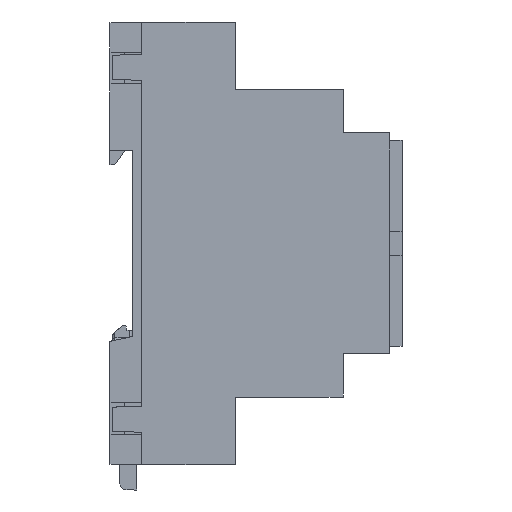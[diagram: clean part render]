
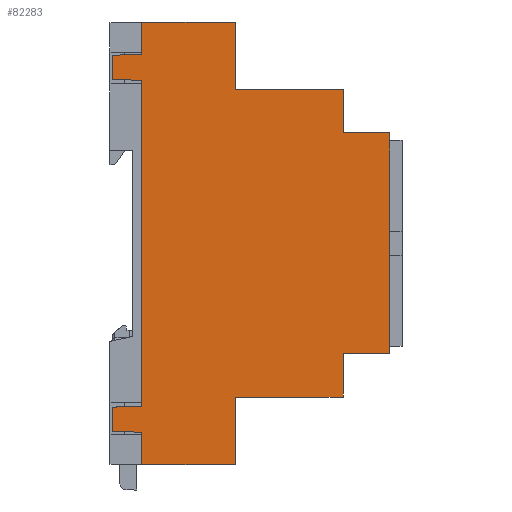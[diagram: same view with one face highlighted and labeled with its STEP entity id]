
A CAD part, left-side view. The second image highlights one B-rep face of the part: STEP entity #82283.
In plain terms, the highlighted planar face has unit normal (-1, 0, 0) as drawn and (0, 0, -1) by its records, which use the part's own axes.
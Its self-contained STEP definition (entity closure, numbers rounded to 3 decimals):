
#1433=PLANE('',#87171);
#5081=FACE_OUTER_BOUND('',#9883,.T.);
#9883=EDGE_LOOP('',(#57720,#57721,#57722,#57723,#57724,#57725,#57726,#57727,
#57728,#57729,#57730,#57731,#57732,#57733,#57734,#57735,#57736,#57737,#57738,
#57739));
#15290=LINE('',#119697,#25112);
#15295=LINE('',#119708,#25117);
#15299=LINE('',#119716,#25121);
#15301=LINE('',#119720,#25123);
#15302=LINE('',#119721,#25124);
#15303=LINE('',#119723,#25125);
#15304=LINE('',#119725,#25126);
#15305=LINE('',#119727,#25127);
#15306=LINE('',#119729,#25128);
#15307=LINE('',#119731,#25129);
#15308=LINE('',#119733,#25130);
#15309=LINE('',#119735,#25131);
#15310=LINE('',#119736,#25132);
#15311=LINE('',#119738,#25133);
#15312=LINE('',#119740,#25134);
#15313=LINE('',#119742,#25135);
#15314=LINE('',#119744,#25136);
#15315=LINE('',#119746,#25137);
#15316=LINE('',#119748,#25138);
#15317=LINE('',#119749,#25139);
#25112=VECTOR('',#95108,1000.);
#25117=VECTOR('',#95115,1000.);
#25121=VECTOR('',#95121,1000.);
#25123=VECTOR('',#95125,1000.);
#25124=VECTOR('',#95126,1000.);
#25125=VECTOR('',#95127,1000.);
#25126=VECTOR('',#95128,1000.);
#25127=VECTOR('',#95129,1000.);
#25128=VECTOR('',#95130,1000.);
#25129=VECTOR('',#95131,1000.);
#25130=VECTOR('',#95132,1000.);
#25131=VECTOR('',#95133,1000.);
#25132=VECTOR('',#95134,1000.);
#25133=VECTOR('',#95135,1000.);
#25134=VECTOR('',#95136,1000.);
#25135=VECTOR('',#95137,1000.);
#25136=VECTOR('',#95138,1000.);
#25137=VECTOR('',#95139,1000.);
#25138=VECTOR('',#95140,1000.);
#25139=VECTOR('',#95141,1000.);
#37167=VERTEX_POINT('',#119695);
#37168=VERTEX_POINT('',#119696);
#37172=VERTEX_POINT('',#119705);
#37173=VERTEX_POINT('',#119707);
#37175=VERTEX_POINT('',#119713);
#37176=VERTEX_POINT('',#119715);
#37177=VERTEX_POINT('',#119719);
#37178=VERTEX_POINT('',#119722);
#37179=VERTEX_POINT('',#119724);
#37180=VERTEX_POINT('',#119726);
#37181=VERTEX_POINT('',#119728);
#37182=VERTEX_POINT('',#119730);
#37183=VERTEX_POINT('',#119732);
#37184=VERTEX_POINT('',#119734);
#37185=VERTEX_POINT('',#119737);
#37186=VERTEX_POINT('',#119739);
#37187=VERTEX_POINT('',#119741);
#37188=VERTEX_POINT('',#119743);
#37189=VERTEX_POINT('',#119745);
#37190=VERTEX_POINT('',#119747);
#45060=EDGE_CURVE('',#37167,#37168,#15290,.T.);
#45065=EDGE_CURVE('',#37172,#37173,#15295,.T.);
#45069=EDGE_CURVE('',#37176,#37175,#15299,.T.);
#45071=EDGE_CURVE('',#37177,#37167,#15301,.T.);
#45072=EDGE_CURVE('',#37168,#37173,#15302,.T.);
#45073=EDGE_CURVE('',#37172,#37178,#15303,.T.);
#45074=EDGE_CURVE('',#37178,#37179,#15304,.T.);
#45075=EDGE_CURVE('',#37180,#37179,#15305,.T.);
#45076=EDGE_CURVE('',#37181,#37180,#15306,.T.);
#45077=EDGE_CURVE('',#37181,#37182,#15307,.T.);
#45078=EDGE_CURVE('',#37183,#37182,#15308,.T.);
#45079=EDGE_CURVE('',#37184,#37183,#15309,.T.);
#45080=EDGE_CURVE('',#37176,#37184,#15310,.T.);
#45081=EDGE_CURVE('',#37175,#37185,#15311,.T.);
#45082=EDGE_CURVE('',#37185,#37186,#15312,.T.);
#45083=EDGE_CURVE('',#37186,#37187,#15313,.T.);
#45084=EDGE_CURVE('',#37187,#37188,#15314,.T.);
#45085=EDGE_CURVE('',#37189,#37188,#15315,.T.);
#45086=EDGE_CURVE('',#37190,#37189,#15316,.T.);
#45087=EDGE_CURVE('',#37190,#37177,#15317,.T.);
#57720=ORIENTED_EDGE('',*,*,#45071,.T.);
#57721=ORIENTED_EDGE('',*,*,#45060,.T.);
#57722=ORIENTED_EDGE('',*,*,#45072,.T.);
#57723=ORIENTED_EDGE('',*,*,#45065,.F.);
#57724=ORIENTED_EDGE('',*,*,#45073,.T.);
#57725=ORIENTED_EDGE('',*,*,#45074,.T.);
#57726=ORIENTED_EDGE('',*,*,#45075,.F.);
#57727=ORIENTED_EDGE('',*,*,#45076,.F.);
#57728=ORIENTED_EDGE('',*,*,#45077,.T.);
#57729=ORIENTED_EDGE('',*,*,#45078,.F.);
#57730=ORIENTED_EDGE('',*,*,#45079,.F.);
#57731=ORIENTED_EDGE('',*,*,#45080,.F.);
#57732=ORIENTED_EDGE('',*,*,#45069,.T.);
#57733=ORIENTED_EDGE('',*,*,#45081,.T.);
#57734=ORIENTED_EDGE('',*,*,#45082,.T.);
#57735=ORIENTED_EDGE('',*,*,#45083,.T.);
#57736=ORIENTED_EDGE('',*,*,#45084,.T.);
#57737=ORIENTED_EDGE('',*,*,#45085,.F.);
#57738=ORIENTED_EDGE('',*,*,#45086,.F.);
#57739=ORIENTED_EDGE('',*,*,#45087,.T.);
#82283=ADVANCED_FACE('',(#5081),#1433,.F.);
#87171=AXIS2_PLACEMENT_3D('',#119718,#95123,#95124);
#95108=DIRECTION('',(0.,1.,0.));
#95115=DIRECTION('',(0.,1.,0.));
#95121=DIRECTION('',(-1.,0.,0.));
#95123=DIRECTION('center_axis',(0.,0.,1.));
#95124=DIRECTION('ref_axis',(1.,0.,0.));
#95125=DIRECTION('',(1.,0.,0.));
#95126=DIRECTION('',(1.,0.,0.));
#95127=DIRECTION('',(1.,0.,0.));
#95128=DIRECTION('',(0.,-1.,0.));
#95129=DIRECTION('',(-1.,0.,0.));
#95130=DIRECTION('',(0.,1.,0.));
#95131=DIRECTION('',(-1.,0.,0.));
#95132=DIRECTION('',(0.017,1.,0.));
#95133=DIRECTION('',(1.,0.,0.));
#95134=DIRECTION('',(0.017,-1.,0.));
#95135=DIRECTION('',(-0.017,-1.,0.));
#95136=DIRECTION('',(-1.,0.,0.));
#95137=DIRECTION('',(-0.017,1.,0.));
#95138=DIRECTION('',(-1.,0.,0.));
#95139=DIRECTION('',(0.,-1.,0.));
#95140=DIRECTION('',(-1.,0.,0.));
#95141=DIRECTION('',(0.,1.,0.));
#119695=CARTESIAN_POINT('',(32.5,48.197,-53.));
#119696=CARTESIAN_POINT('',(32.5,57.697,-53.));
#119697=CARTESIAN_POINT('',(32.5,47.197,-53.));
#119705=CARTESIAN_POINT('',(77.5,48.197,-53.));
#119707=CARTESIAN_POINT('',(77.5,57.697,-53.));
#119708=CARTESIAN_POINT('',(77.5,47.197,-53.));
#119713=CARTESIAN_POINT('',(21.755,7.197,-53.));
#119715=CARTESIAN_POINT('',(88.245,7.197,-53.));
#119716=CARTESIAN_POINT('',(10.2,7.197,-53.));
#119718=CARTESIAN_POINT('Origin',(55.7,22.819,-53.));
#119719=CARTESIAN_POINT('',(23.7,48.197,-53.));
#119720=CARTESIAN_POINT('',(23.7,48.197,-53.));
#119721=CARTESIAN_POINT('',(55.,57.697,-53.));
#119722=CARTESIAN_POINT('',(86.3,48.197,-53.));
#119723=CARTESIAN_POINT('',(86.3,48.197,-53.));
#119724=CARTESIAN_POINT('',(86.3,26.197,-53.));
#119725=CARTESIAN_POINT('',(86.3,48.197,-53.));
#119726=CARTESIAN_POINT('',(100.1,26.197,-53.));
#119727=CARTESIAN_POINT('',(100.8,26.197,-53.));
#119728=CARTESIAN_POINT('',(100.1,7.197,-53.));
#119729=CARTESIAN_POINT('',(100.1,23.819,-53.));
#119730=CARTESIAN_POINT('',(93.455,7.197,-53.));
#119731=CARTESIAN_POINT('',(9.1,7.197,-53.));
#119732=CARTESIAN_POINT('',(93.35,1.197,-53.));
#119733=CARTESIAN_POINT('',(93.35,1.197,-53.));
#119734=CARTESIAN_POINT('',(88.35,1.197,-53.));
#119735=CARTESIAN_POINT('',(90.85,1.197,-53.));
#119736=CARTESIAN_POINT('',(88.35,1.197,-53.));
#119737=CARTESIAN_POINT('',(21.65,1.197,-53.));
#119738=CARTESIAN_POINT('',(21.65,1.197,-53.));
#119739=CARTESIAN_POINT('',(16.65,1.197,-53.));
#119740=CARTESIAN_POINT('',(19.15,1.197,-53.));
#119741=CARTESIAN_POINT('',(16.545,7.197,-53.));
#119742=CARTESIAN_POINT('',(16.65,1.197,-53.));
#119743=CARTESIAN_POINT('',(9.9,7.197,-53.));
#119744=CARTESIAN_POINT('',(9.9,7.197,-53.));
#119745=CARTESIAN_POINT('',(9.9,26.197,-53.));
#119746=CARTESIAN_POINT('',(9.9,23.819,-53.));
#119747=CARTESIAN_POINT('',(23.7,26.197,-53.));
#119748=CARTESIAN_POINT('',(25.4,26.197,-53.));
#119749=CARTESIAN_POINT('',(23.7,48.197,-53.));
